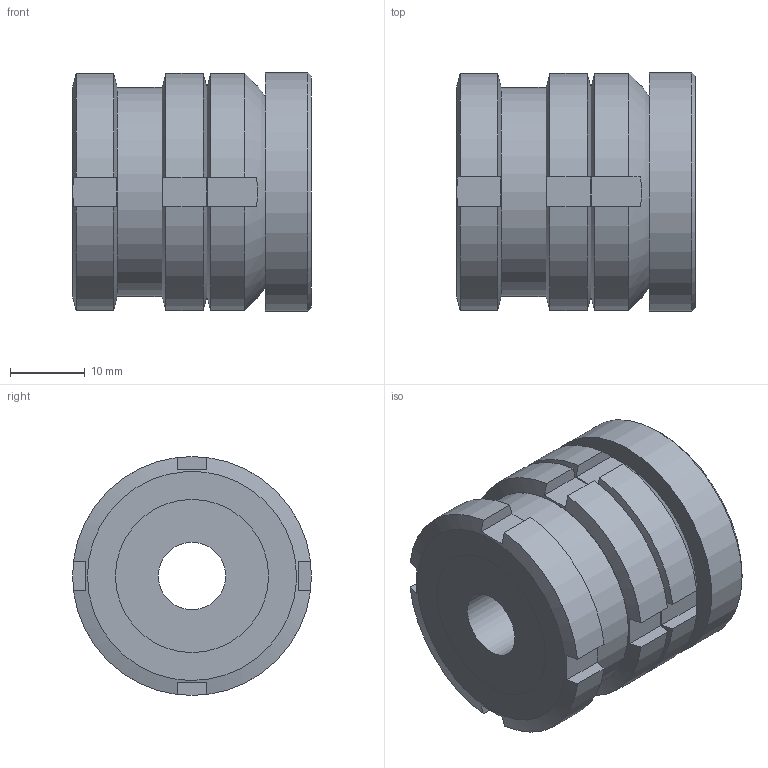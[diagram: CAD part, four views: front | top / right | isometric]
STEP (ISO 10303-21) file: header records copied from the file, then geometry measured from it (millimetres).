
FILE_DESCRIPTION( ( 'STEP AP203' ), '1' );
FILE_NAME( 'C:/Temp/Ganter_Step_05_03_2020/data/3_2/gn350_5/gn350_5_st/Levelling set GN 350.5-32-9-32-ST (0-0).stp', '2020-03-13T05:28:26', ( 'License CC BY-ND 4.0' ), ( 'CADENAS' ), ' ', 'PARTsolutions', ' ' );
FILE_SCHEMA( ( 'CONFIG_CONTROL_DESIGN' ) );
Length unit declared in the file: millimetre
Products named in the file (5): Levelling set GN 350.5-32-9-32-ST (0-0); _Levelling set GN 350.5-32-9-32-ST-G; _Levelling set GN 350.5-32-9-32-ST-K; _Levelling set GN 350.5-32-9-32-ST-P(0); _Levelling set GN 350.5-32-9-32-ST-KM
Assembly tree (4 placements, depth 2):
  Levelling set GN 350.5-32-9-32-ST (0-0)
    _Levelling set GN 350.5-32-9-32-ST-G
    _Levelling set GN 350.5-32-9-32-ST-K
    _Levelling set GN 350.5-32-9-32-ST-P(0)
    _Levelling set GN 350.5-32-9-32-ST-KM
Bounding box: 32 x 32 x 32 mm (x, y, z)
Volume: 21398.9 mm3; surface area: 11273.4 mm2
Topology: 4 solids, 4 shells, 84 faces, 209 edges, 139 vertices
Faces by surface type: plane 50, cylinder 24, cone 8, sphere 2
Full cylindrical faces by diameter (mm): 9 x1, 15 x1, 16.473 x1, 17.5 x1, 18.917 x2, 20 x2, 20.5 x2, 28 x1, 32 x1
Entity records: 2676 total; most frequent: CARTESIAN_POINT 695, DIRECTION 364, ORIENTED_EDGE 354, EDGE_CURVE 177, AXIS2_PLACEMENT_3D 158, VERTEX_POINT 129, EDGE_LOOP 120, FACE_OUTER_BOUND 98
